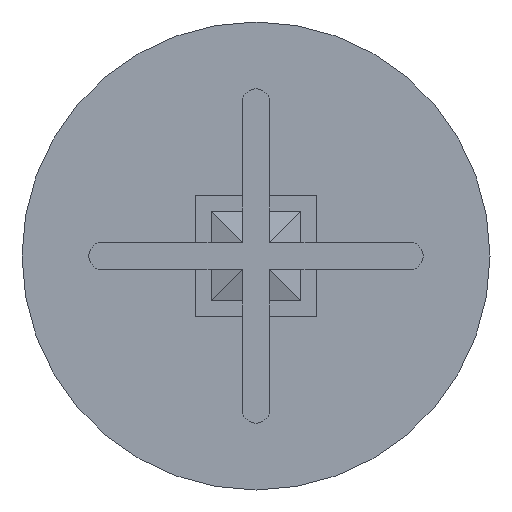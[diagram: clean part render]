
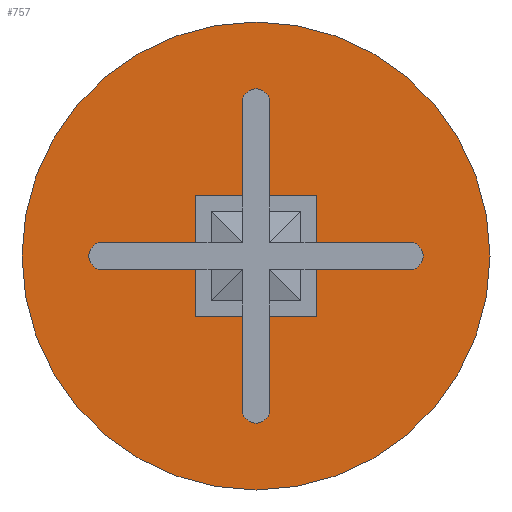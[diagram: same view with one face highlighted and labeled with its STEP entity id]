
A CAD part, front view. The second image highlights one B-rep face of the part: STEP entity #757.
In plain terms, the highlighted planar face has unit normal (0, -1, 0).
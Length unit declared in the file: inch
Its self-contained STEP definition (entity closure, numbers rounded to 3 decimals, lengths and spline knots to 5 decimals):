
#181=FACE_OUTER_BOUND('',#225,.T.);
#225=EDGE_LOOP('',(#689));
#380=CIRCLE('',#901,21.);
#437=VERTEX_POINT('',#1362);
#521=EDGE_CURVE('',#437,#437,#380,.T.);
#689=ORIENTED_EDGE('',*,*,#521,.F.);
#719=PLANE('',#903);
#757=ADVANCED_FACE('',(#181),#719,.F.);
#901=AXIS2_PLACEMENT_3D('',#1364,#1099,#1100);
#903=AXIS2_PLACEMENT_3D('',#1366,#1103,#1104);
#1099=DIRECTION('center_axis',(0.,1.,0.));
#1100=DIRECTION('ref_axis',(-1.,0.,0.));
#1103=DIRECTION('center_axis',(0.,1.,0.));
#1104=DIRECTION('ref_axis',(0.,0.,1.));
#1362=CARTESIAN_POINT('',(21.,0.,0.));
#1364=CARTESIAN_POINT('Origin',(0.,0.,0.));
#1366=CARTESIAN_POINT('Origin',(0.,0.,0.));
